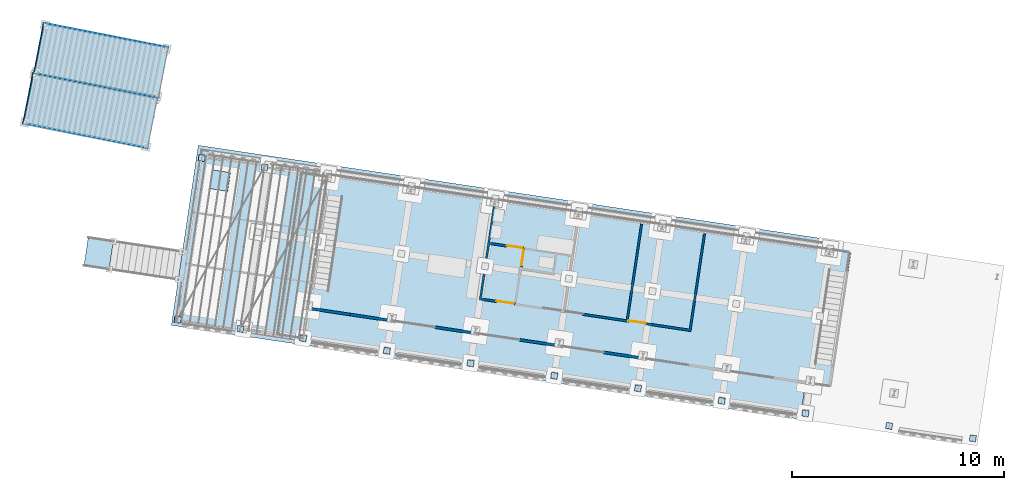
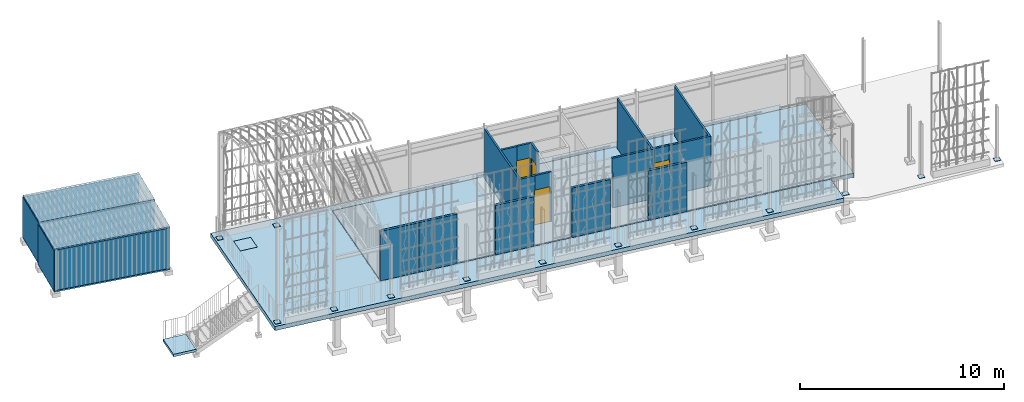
# One storey, part 134 of 142: 20 plates, 8 walls, 7 slabs, 4 doors, 7 openings, 5 elements without a shape of their own.
"""IFC4 building model written with IfcOpenShell, lengths in metres."""

from ifc_helpers import new_model, si_unit, direction, frame, origin_with_axes, place, context, subcontext, project, spatial, polyline, outline, extrude, material, layer, layer_set, constituent, constituent_set, element, fill, aggregate, save


model = new_model("IFC4")

# Units and contexts
model_context = context("Model", 3, precision=1e-05, world=origin_with_axes(), true_north=direction((0.0, 1.0)))
body_context = subcontext(model_context, "Body", "Model", "MODEL_VIEW")
ifc_project = project(units=[si_unit("AREAUNIT", "SQUARE_METRE"), si_unit("VOLUMEUNIT", "CUBIC_METRE"), si_unit("LENGTHUNIT", "METRE")], contexts=[model_context])

# Site, building, storey
site_placement = place(None, origin_with_axes())
site = spatial("IfcSite", under=ifc_project, at=site_placement, Name="Lares · Rua das Mercês · artigo 4771")
building_placement = place(site_placement, frame((15.0, 9.7, 14.65), z_axis=(0.0, 0.0, 1.0), x_axis=(0.989015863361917, -0.147809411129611, 0.0)))
building = spatial("IfcBuilding", under=site, at=building_placement, Name="Casa Sobreposta")
storey_placement = place(building_placement, origin_with_axes())
storey = spatial("IfcBuildingStorey", under=building, at=storey_placement, Name="00 · Habitação e estacionamento", Elevation=14.65)

# Assembly, slabs, opening, plate
assembly_1_placement = place(storey_placement, origin_with_axes())
assembly_1 = element("IfcElementAssembly", 1, at=assembly_1_placement, inside=storey, Name="Pódio · terraço, casa térrea e cisterna", ObjectType="CISTERN_PODIUM", PredefinedType="USERDEFINED")
ifc_material_1 = material(Name="Betão armado / Stahlbeton", Category="concrete")
slab_1_placement = place(assembly_1_placement, frame((0.0, 0.0, -0.25), z_axis=(0.0, 0.0, 1.0), x_axis=(1.0, 0.0, 0.0)))
slab_1 = element("IfcSlab", 2, at=slab_1_placement, material=ifc_material_1, Name="Pódio · laje da casa 250 mm", PredefinedType="FLOOR", context=body_context, shape_type="SweptSolid", body=[
    extrude(outline(polyline([(25.01, 0.0), (25.01, 6.4), (0.0, 6.4), (0.0, 0.0), (25.01, 0.0)])), origin_with_axes(), (0.0, 0.0, 1.0), 0.25),
])
slab_2_placement = place(assembly_1_placement, frame((0.0, 0.0, -0.29), z_axis=(0.0, 0.0, 1.0), x_axis=(1.0, 0.0, 0.0)))
slab_2 = element("IfcSlab", 3, at=slab_2_placement, material=ifc_material_1, Name="Pódio · terraço e faixa de proteção sul", PredefinedType="FLOOR", context=body_context, shape_type="SweptSolid", body=[
    extrude(outline(polyline([(-6.25, 6.85), (23.8, 6.85), (23.8, 6.4), (0.0, 6.4), (0.0, 0.0), (23.8, 0.0), (23.8, -1.75), (-6.25, -1.75), (-6.25, 6.85)])), origin_with_axes(), (0.0, 0.0, 1.0), 0.25),
])
opening_1_placement = place(slab_2_placement, frame((0.0, 0.0, -0.06), z_axis=(0.0, 0.0, 1.0), x_axis=(1.0, 0.0, 0.0)))
element("IfcOpeningElement", 4, at=opening_1_placement, cuts=slab_2, Name="Cisterna · abertura de inspeção", PredefinedType="OPENING", context=body_context, shape_type="SweptSolid", body=[
    extrude(outline(polyline([(-4.55, 4.9), (-4.55, 5.8), (-5.45, 5.8), (-5.45, 4.9), (-4.55, 4.9)])), origin_with_axes(), (0.0, 0.0, 1.0), 0.4),
])
ifc_material_2 = material(Name="Aço galvanizado / Stahl verzinkt", Category="steel")
plate_1_placement = place(assembly_1_placement, frame((0.0, 0.0, -0.085), z_axis=(0.0, 0.0, 1.0), x_axis=(1.0, 0.0, 0.0)))
plate_1 = element("IfcPlate", 5, at=plate_1_placement, material=ifc_material_2, Name="Cisterna · tampa estanque de inspeção", PredefinedType="SHEET", context=body_context, shape_type="SweptSolid", body=[
    extrude(outline(polyline([(-4.55, 4.9), (-4.55, 5.8), (-5.45, 5.8), (-5.45, 4.9), (-4.55, 4.9)])), origin_with_axes(), (0.0, 0.0, 1.0), 0.045),
])
aggregate(assembly_1, [slab_1, slab_2, plate_1])

# Stair, slab
stair_placement = place(storey_placement, origin_with_axes())
stair = element("IfcStair", 6, at=stair_placement, inside=storey, Name="Jardim · escada pela fachada poente", PredefinedType="STRAIGHT_RUN_STAIR")
slab_3_placement = place(stair_placement, frame((0.0, 0.0, -2.1), z_axis=(0.0, 0.0, 1.0), x_axis=(1.0, 0.0, 0.0)))
slab_3 = element("IfcSlab", 7, at=slab_3_placement, material=ifc_material_1, Name="Jardim · patamar poente", PredefinedType="LANDING", context=body_context, shape_type="SweptSolid", body=[
    extrude(outline(polyline([(-9.55, 0.4), (-9.55, 1.8), (-10.75, 1.8), (-10.75, 0.4), (-9.55, 0.4)])), origin_with_axes(), (0.0, 0.0, 1.0), 0.15),
])
aggregate(stair, [slab_3])

# Assembly, plates
assembly_2_placement = place(storey_placement, origin_with_axes())
assembly_2 = element("IfcElementAssembly", 8, at=assembly_2_placement, inside=storey, Name="Pérgola · prolongamento da estufa 6 m", ObjectType="PERGOLA_GREENHOUSE_EXTENSION", PredefinedType="USERDEFINED")
plate_2_placement = place(assembly_2_placement, frame((0.0, 0.0, -0.04), z_axis=(0.0, 0.0, 1.0), x_axis=(1.0, 0.0, 0.0)))
plate_2 = element("IfcPlate", 9, at=plate_2_placement, material=ifc_material_2, Name="Pérgola · chapa de ancoragem", PredefinedType="SHEET", context=body_context, shape_type="SweptSolid", body=[
    extrude(outline(polyline([(-5.85, -1.59), (-5.85, -1.29), (-6.15, -1.29), (-6.15, -1.59), (-5.85, -1.59)])), origin_with_axes(), (0.0, 0.0, 1.0), 0.025),
])
plate_3_placement = place(assembly_2_placement, frame((0.0, 0.0, -0.04), z_axis=(0.0, 0.0, 1.0), x_axis=(1.0, 0.0, 0.0)))
plate_3 = element("IfcPlate", 10, at=plate_3_placement, material=ifc_material_2, Name="Pérgola · chapa de ancoragem", PredefinedType="SHEET", context=body_context, shape_type="SweptSolid", body=[
    extrude(outline(polyline([(-5.85, 6.13), (-5.85, 6.43), (-6.15, 6.43), (-6.15, 6.13), (-5.85, 6.13)])), origin_with_axes(), (0.0, 0.0, 1.0), 0.025),
])
plate_4_placement = place(assembly_2_placement, frame((0.0, 0.0, -0.04), z_axis=(0.0, 0.0, 1.0), x_axis=(1.0, 0.0, 0.0)))
plate_4 = element("IfcPlate", 11, at=plate_4_placement, material=ifc_material_2, Name="Pérgola · chapa de ancoragem", PredefinedType="SHEET", context=body_context, shape_type="SweptSolid", body=[
    extrude(outline(polyline([(-2.85, -1.59), (-2.85, -1.29), (-3.15, -1.29), (-3.15, -1.59), (-2.85, -1.59)])), origin_with_axes(), (0.0, 0.0, 1.0), 0.025),
])
plate_5_placement = place(assembly_2_placement, frame((0.0, 0.0, -0.04), z_axis=(0.0, 0.0, 1.0), x_axis=(1.0, 0.0, 0.0)))
plate_5 = element("IfcPlate", 12, at=plate_5_placement, material=ifc_material_2, Name="Pérgola · chapa de ancoragem", PredefinedType="SHEET", context=body_context, shape_type="SweptSolid", body=[
    extrude(outline(polyline([(-2.85, 6.13), (-2.85, 6.43), (-3.15, 6.43), (-3.15, 6.13), (-2.85, 6.13)])), origin_with_axes(), (0.0, 0.0, 1.0), 0.025),
])
aggregate(assembly_2, [plate_2, plate_3, plate_4, plate_5])

# Plates
plate_6_placement = place(storey_placement, frame((0.0, 0.0, -0.04), z_axis=(0.0, 0.0, 1.0), x_axis=(1.0, 0.0, 0.0)))
element("IfcPlate", 13, at=plate_6_placement, inside=storey, material=ifc_material_2, Name="Projeção estufa · chapa de ancoragem", PredefinedType="SHEET", context=body_context, shape_type="SweptSolid", body=[
    extrude(outline(polyline([(0.15, -1.59), (0.15, -1.29), (-0.15, -1.29), (-0.15, -1.59), (0.15, -1.59)])), origin_with_axes(), (0.0, 0.0, 1.0), 0.025),
])
plate_7_placement = place(storey_placement, frame((0.0, 0.0, -0.04), z_axis=(0.0, 0.0, 1.0), x_axis=(1.0, 0.0, 0.0)))
element("IfcPlate", 14, at=plate_7_placement, inside=storey, material=ifc_material_2, Name="Projeção estufa · chapa de ancoragem", PredefinedType="SHEET", context=body_context, shape_type="SweptSolid", body=[
    extrude(outline(polyline([(4.15, -1.59), (4.15, -1.29), (3.85, -1.29), (3.85, -1.59), (4.15, -1.59)])), origin_with_axes(), (0.0, 0.0, 1.0), 0.025),
])
plate_8_placement = place(storey_placement, frame((0.0, 0.0, -0.04), z_axis=(0.0, 0.0, 1.0), x_axis=(1.0, 0.0, 0.0)))
element("IfcPlate", 15, at=plate_8_placement, inside=storey, material=ifc_material_2, Name="Projeção estufa · chapa de ancoragem", PredefinedType="SHEET", context=body_context, shape_type="SweptSolid", body=[
    extrude(outline(polyline([(8.15, -1.59), (8.15, -1.29), (7.85, -1.29), (7.85, -1.59), (8.15, -1.59)])), origin_with_axes(), (0.0, 0.0, 1.0), 0.025),
])
plate_9_placement = place(storey_placement, frame((0.0, 0.0, -0.04), z_axis=(0.0, 0.0, 1.0), x_axis=(1.0, 0.0, 0.0)))
element("IfcPlate", 16, at=plate_9_placement, inside=storey, material=ifc_material_2, Name="Projeção estufa · chapa de ancoragem", PredefinedType="SHEET", context=body_context, shape_type="SweptSolid", body=[
    extrude(outline(polyline([(12.15, -1.59), (12.15, -1.29), (11.85, -1.29), (11.85, -1.59), (12.15, -1.59)])), origin_with_axes(), (0.0, 0.0, 1.0), 0.025),
])
plate_10_placement = place(storey_placement, frame((0.0, 0.0, -0.04), z_axis=(0.0, 0.0, 1.0), x_axis=(1.0, 0.0, 0.0)))
element("IfcPlate", 17, at=plate_10_placement, inside=storey, material=ifc_material_2, Name="Projeção estufa · chapa de ancoragem", PredefinedType="SHEET", context=body_context, shape_type="SweptSolid", body=[
    extrude(outline(polyline([(16.15, -1.59), (16.15, -1.29), (15.85, -1.29), (15.85, -1.59), (16.15, -1.59)])), origin_with_axes(), (0.0, 0.0, 1.0), 0.025),
])
plate_11_placement = place(storey_placement, frame((0.0, 0.0, -0.04), z_axis=(0.0, 0.0, 1.0), x_axis=(1.0, 0.0, 0.0)))
element("IfcPlate", 18, at=plate_11_placement, inside=storey, material=ifc_material_2, Name="Projeção estufa · chapa de ancoragem", PredefinedType="SHEET", context=body_context, shape_type="SweptSolid", body=[
    extrude(outline(polyline([(20.15, -1.59), (20.15, -1.29), (19.85, -1.29), (19.85, -1.59), (20.15, -1.59)])), origin_with_axes(), (0.0, 0.0, 1.0), 0.025),
])
plate_12_placement = place(storey_placement, frame((0.0, 0.0, -0.04), z_axis=(0.0, 0.0, 1.0), x_axis=(1.0, 0.0, 0.0)))
element("IfcPlate", 19, at=plate_12_placement, inside=storey, material=ifc_material_2, Name="Projeção estufa · chapa de ancoragem", PredefinedType="SHEET", context=body_context, shape_type="SweptSolid", body=[
    extrude(outline(polyline([(24.15, -1.59), (24.15, -1.29), (23.85, -1.29), (23.85, -1.59), (24.15, -1.59)])), origin_with_axes(), (0.0, 0.0, 1.0), 0.025),
])
plate_13_placement = place(storey_placement, frame((0.0, 0.0, -0.04), z_axis=(0.0, 0.0, 1.0), x_axis=(1.0, 0.0, 0.0)))
element("IfcPlate", 20, at=plate_13_placement, inside=storey, material=ifc_material_2, Name="Projeção estufa · chapa de ancoragem", PredefinedType="SHEET", context=body_context, shape_type="SweptSolid", body=[
    extrude(outline(polyline([(28.15, -1.59), (28.15, -1.29), (27.85, -1.29), (27.85, -1.59), (28.15, -1.59)])), origin_with_axes(), (0.0, 0.0, 1.0), 0.025),
])
plate_14_placement = place(storey_placement, frame((0.0, 0.0, -0.04), z_axis=(0.0, 0.0, 1.0), x_axis=(1.0, 0.0, 0.0)))
element("IfcPlate", 21, at=plate_14_placement, inside=storey, material=ifc_material_2, Name="Projeção estufa · chapa de ancoragem", PredefinedType="SHEET", context=body_context, shape_type="SweptSolid", body=[
    extrude(outline(polyline([(32.15, -1.59), (32.15, -1.29), (31.85, -1.29), (31.85, -1.59), (32.15, -1.59)])), origin_with_axes(), (0.0, 0.0, 1.0), 0.025),
])

# Assembly, slabs, plates
assembly_3_placement = place(storey_placement, frame((-14.4335953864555, 9.04888612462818, 0.0), z_axis=(0.0, 0.0, 1.0), x_axis=(0.999032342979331, -0.0439815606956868, 0.0)))
assembly_3 = element("IfcElementAssembly", 22, at=assembly_3_placement, inside=storey, Name="Contentor existente 1 · 6 m", ObjectType="EXISTING_SHIPPING_CONTAINER", PredefinedType="USERDEFINED")
ifc_material_3 = material(Name="Contentor · pintura 1", Category="steel")
slab_4_placement = place(assembly_3_placement, frame((0.0, 0.0, -1.3), z_axis=(0.0, 0.0, 1.0), x_axis=(1.0, 0.0, 0.0)))
slab_4 = element("IfcSlab", 23, at=slab_4_placement, material=ifc_material_3, Name="Contentor · piso ou teto", PredefinedType="FLOOR", context=body_context, shape_type="SweptSolid", body=[
    extrude(outline(polyline([(6.0, 0.0), (6.0, 2.44), (0.0, 2.44), (0.0, 0.0), (6.0, 0.0)])), origin_with_axes(), (0.0, 0.0, 1.0), 0.08),
])
slab_5_placement = place(assembly_3_placement, frame((0.0, 0.0, 1.21), z_axis=(0.0, 0.0, 1.0), x_axis=(1.0, 0.0, 0.0)))
slab_5 = element("IfcSlab", 24, at=slab_5_placement, material=ifc_material_3, Name="Contentor · piso ou teto", PredefinedType="FLOOR", context=body_context, shape_type="SweptSolid", body=[
    extrude(outline(polyline([(6.0, 0.0), (6.0, 2.44), (0.0, 2.44), (0.0, 0.0), (6.0, 0.0)])), origin_with_axes(), (0.0, 0.0, 1.0), 0.08),
])
plate_15_placement = place(assembly_3_placement, frame((0.0, 0.0, -1.22), z_axis=(0.0, 0.0, 1.0), x_axis=(1.0, 0.0, 0.0)))
plate_15 = element("IfcPlate", 25, at=plate_15_placement, material=ifc_material_3, Name="Contentor · chapa lateral", context=body_context, shape_type="SweptSolid", body=[
    extrude(outline(polyline([(6.0, 0.0325), (6.0, 0.0075), (0.0, 0.0075), (0.0, 0.0325), (6.0, 0.0325)])), origin_with_axes(), (0.0, 0.0, 1.0), 2.43),
])
plate_16_placement = place(assembly_3_placement, frame((0.0, 0.0, -1.22), z_axis=(0.0, 0.0, 1.0), x_axis=(1.0, 0.0, 0.0)))
plate_16 = element("IfcPlate", 26, at=plate_16_placement, material=ifc_material_3, Name="Contentor · chapa lateral", context=body_context, shape_type="SweptSolid", body=[
    extrude(outline(polyline([(6.0, 2.4325), (6.0, 2.4075), (0.0, 2.4075), (0.0, 2.4325), (6.0, 2.4325)])), origin_with_axes(), (0.0, 0.0, 1.0), 2.43),
])
plate_17_placement = place(assembly_3_placement, frame((0.0, 0.0, -1.22), z_axis=(0.0, 0.0, 1.0), x_axis=(1.0, 0.0, 0.0)))
plate_17 = element("IfcPlate", 27, at=plate_17_placement, material=ifc_material_3, Name="Contentor · chapa de fundo", context=body_context, shape_type="SweptSolid", body=[
    extrude(outline(polyline([(-0.025, 2.44), (0.025, 2.44), (0.025, 0.0), (-0.025, 0.0), (-0.025, 2.44)])), origin_with_axes(), (0.0, 0.0, 1.0), 2.43),
])
aggregate(assembly_3, [slab_4, slab_5, plate_15, plate_16, plate_17])

assembly_4_placement = place(storey_placement, frame((-14.5932944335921, 6.63122214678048, 0.0), z_axis=(0.0, 0.0, 1.0), x_axis=(0.998832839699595, -0.0483007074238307, 0.0)))
assembly_4 = element("IfcElementAssembly", 28, at=assembly_4_placement, inside=storey, Name="Contentor existente 2 · 6 m", ObjectType="EXISTING_SHIPPING_CONTAINER", PredefinedType="USERDEFINED")
ifc_material_4 = material(Name="Contentor · pintura 2", Category="steel")
slab_6_placement = place(assembly_4_placement, frame((0.0, 0.0, -1.3), z_axis=(0.0, 0.0, 1.0), x_axis=(1.0, 0.0, 0.0)))
slab_6 = element("IfcSlab", 29, at=slab_6_placement, material=ifc_material_4, Name="Contentor · piso ou teto", PredefinedType="FLOOR", context=body_context, shape_type="SweptSolid", body=[
    extrude(outline(polyline([(6.0, 0.0), (6.0, 2.44), (0.0, 2.44), (0.0, 0.0), (6.0, 0.0)])), origin_with_axes(), (0.0, 0.0, 1.0), 0.08),
])
slab_7_placement = place(assembly_4_placement, frame((0.0, 0.0, 1.21), z_axis=(0.0, 0.0, 1.0), x_axis=(1.0, 0.0, 0.0)))
slab_7 = element("IfcSlab", 30, at=slab_7_placement, material=ifc_material_4, Name="Contentor · piso ou teto", PredefinedType="FLOOR", context=body_context, shape_type="SweptSolid", body=[
    extrude(outline(polyline([(6.0, 0.0), (6.0, 2.44), (0.0, 2.44), (0.0, 0.0), (6.0, 0.0)])), origin_with_axes(), (0.0, 0.0, 1.0), 0.08),
])
plate_18_placement = place(assembly_4_placement, frame((0.0, 0.0, -1.22), z_axis=(0.0, 0.0, 1.0), x_axis=(1.0, 0.0, 0.0)))
plate_18 = element("IfcPlate", 31, at=plate_18_placement, material=ifc_material_4, Name="Contentor · chapa lateral", context=body_context, shape_type="SweptSolid", body=[
    extrude(outline(polyline([(6.0, 0.0325), (6.0, 0.0075), (0.0, 0.0075), (0.0, 0.0325), (6.0, 0.0325)])), origin_with_axes(), (0.0, 0.0, 1.0), 2.43),
])
plate_19_placement = place(assembly_4_placement, frame((0.0, 0.0, -1.22), z_axis=(0.0, 0.0, 1.0), x_axis=(1.0, 0.0, 0.0)))
plate_19 = element("IfcPlate", 32, at=plate_19_placement, material=ifc_material_4, Name="Contentor · chapa lateral", context=body_context, shape_type="SweptSolid", body=[
    extrude(outline(polyline([(6.0, 2.4325), (6.0, 2.4075), (0.0, 2.4075), (0.0, 2.4325), (6.0, 2.4325)])), origin_with_axes(), (0.0, 0.0, 1.0), 2.43),
])
plate_20_placement = place(assembly_4_placement, frame((0.0, 0.0, -1.22), z_axis=(0.0, 0.0, 1.0), x_axis=(1.0, 0.0, 0.0)))
plate_20 = element("IfcPlate", 33, at=plate_20_placement, material=ifc_material_4, Name="Contentor · chapa de fundo", context=body_context, shape_type="SweptSolid", body=[
    extrude(outline(polyline([(-0.025, 2.44), (0.025, 2.44), (0.025, 0.0), (-0.025, 0.0), (-0.025, 2.44)])), origin_with_axes(), (0.0, 0.0, 1.0), 2.43),
])
aggregate(assembly_4, [slab_6, slab_7, plate_18, plate_19, plate_20])

# Wall, openings, doors
ifc_material_5 = material(Name="OSB", Category="wood")
ifc_constituent_1 = constituent(ifc_material_5, Name="osb")
ifc_material_6 = material(Name="Lã mineral / Mineralwolle 2", Category="mineral wool")
ifc_constituent_2 = constituent(ifc_material_6, Name="wool")
ifc_constituent_set_1 = constituent_set(constituents=[ifc_constituent_1, ifc_constituent_2], Name="OSB22 / lã mineral / OSB22")
wall_1_placement = place(storey_placement, origin_with_axes())
wall_1 = element("IfcWall", 34, at=wall_1_placement, inside=storey, material=ifc_constituent_set_1, Name="Divisória 1 · OSB 22 mm nas duas faces", context=body_context, shape_type="SweptSolid", body=[
    extrude(outline(polyline([(8.05999999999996, 6.27299999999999), (8.05999999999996, 4.35299999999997), (8.80454037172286, 4.35299999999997), (8.80454322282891, 4.37255471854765), (9.67462900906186, 4.37242785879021), (9.67461809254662, 4.29755537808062), (9.74955631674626, 4.29756574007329), (9.74967661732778, 3.42754853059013), (9.63967661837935, 3.4275333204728), (9.63956117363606, 4.26243297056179), (8.90999999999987, 4.26253934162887), (8.90999999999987, 4.24299999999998), (8.05999999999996, 4.24299999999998), (8.05999999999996, 1.68999999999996), (8.70456930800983, 1.68999999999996), (8.70457262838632, 1.71008556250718), (9.6746647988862, 1.70992519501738), (9.67464661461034, 1.59992519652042), (8.80999999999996, 1.60006813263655), (8.80999999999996, 1.57999999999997), (7.96000000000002, 1.57999999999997), (7.96000000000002, 6.27299999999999), (8.05999999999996, 6.27299999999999)]), holes=[polyline([(7.98200000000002, 1.60199999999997), (8.78799999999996, 1.60199999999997), (8.78799999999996, 1.62207176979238), (9.65265025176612, 1.62192883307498), (9.65266116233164, 1.68792883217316), (8.72656899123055, 1.68808192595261), (8.72656567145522, 1.66799999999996), (8.03799999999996, 1.66799999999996), (8.03799999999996, 4.26499999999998), (8.88799999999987, 4.26499999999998), (8.88799999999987, 4.28454254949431), (9.65261617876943, 4.28443106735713), (9.65262580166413, 4.35043106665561), (8.8265400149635, 4.35055151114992), (8.82653716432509, 4.33099999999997), (8.03799999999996, 4.33099999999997), (8.03799999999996, 6.25099999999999), (7.98200000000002, 6.25099999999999), (7.98200000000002, 1.60199999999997)]), polyline([(9.66167357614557, 3.44953636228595), (9.72767357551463, 3.44954548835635), (9.72755935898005, 4.27556269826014), (9.661559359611, 4.27555357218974), (9.66167357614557, 3.44953636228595)])]), origin_with_axes(), (0.0, 0.0, 1.0), 2.968),
    extrude(outline(polyline([(7.98200000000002, 6.25099999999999), (8.03799999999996, 6.25099999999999), (8.03799999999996, 4.33099999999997), (8.82653716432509, 4.33099999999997), (8.8265400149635, 4.35055151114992), (9.65262580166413, 4.35043106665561), (9.65261617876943, 4.28443106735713), (8.88799999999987, 4.28454254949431), (8.88799999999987, 4.26499999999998), (8.03799999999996, 4.26499999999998), (8.03799999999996, 1.66799999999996), (8.72656567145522, 1.66799999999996), (8.72656899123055, 1.68808192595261), (9.65266116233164, 1.68792883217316), (9.65265025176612, 1.62192883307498), (8.78799999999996, 1.62207176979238), (8.78799999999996, 1.60199999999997), (7.98200000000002, 1.60199999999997), (7.98200000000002, 6.25099999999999)])), origin_with_axes(), (0.0, 0.0, 1.0), 2.968),
    extrude(outline(polyline([(9.661559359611, 4.27555357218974), (9.72755935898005, 4.27556269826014), (9.72767357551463, 3.44954548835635), (9.66167357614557, 3.44953636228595), (9.661559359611, 4.27555357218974)])), origin_with_axes(), (0.0, 0.0, 1.0), 2.968),
])
opening_2_placement = place(wall_1_placement, origin_with_axes())
opening_2 = element("IfcOpeningElement", 35, at=opening_2_placement, cuts=wall_1, PredefinedType="OPENING", context=body_context, shape_type="SweptSolid", body=[
    extrude(outline(polyline([(8.87451187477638, 4.15754451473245), (8.87455853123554, 4.47754451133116), (9.60464431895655, 4.4774380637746), (9.60459766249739, 4.15743806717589), (8.87451187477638, 4.15754451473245)])), origin_with_axes(), (0.0, 0.0, 1.0), 2.1),
])
opening_3_placement = place(wall_1_placement, origin_with_axes())
opening_3 = element("IfcOpeningElement", 36, at=opening_3_placement, cuts=wall_1, PredefinedType="OPENING", context=body_context, shape_type="SweptSolid", body=[
    extrude(outline(polyline([(8.77453708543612, 1.49507399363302), (8.77458998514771, 1.81507398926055), (9.60468215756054, 1.81493676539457), (9.60462925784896, 1.49493676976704), (8.77453708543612, 1.49507399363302)])), origin_with_axes(), (0.0, 0.0, 1.0), 2.1),
])
opening_4_placement = place(wall_1_placement, origin_with_axes())
opening_4 = element("IfcOpeningElement", 37, at=opening_4_placement, cuts=wall_1, PredefinedType="OPENING", context=body_context, shape_type="SweptSolid", body=[
    extrude(outline(polyline([(9.85466693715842, 3.49756304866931), (9.53466694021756, 3.49751880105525), (9.5345659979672, 4.22753601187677), (9.85456599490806, 4.22758025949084), (9.85466693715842, 3.49756304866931)])), origin_with_axes(), (0.0, 0.0, 1.0), 2.1),
])
door_1_placement = place(storey_placement, origin_with_axes())
door_1 = element("IfcDoor", 38, at=door_1_placement, inside=storey, material=ifc_material_5, Name="Porta interior 3", OperationType="SINGLE_SWING_LEFT", OverallHeight=2.1, OverallWidth=0.730085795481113, PredefinedType="DOOR", context=body_context, shape_type="SweptSolid", body=[
    extrude(outline(polyline([(8.87453265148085, 4.30004451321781), (8.87453775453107, 4.3350445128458), (9.60462354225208, 4.33493806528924), (9.60461843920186, 4.29993806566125), (8.87453265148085, 4.30004451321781)])), origin_with_axes(), (0.0, 0.0, 1.0), 2.1),
])
fill(opening_2, door_1)
door_2_placement = place(storey_placement, origin_with_axes())
door_2 = element("IfcDoor", 39, at=door_2_placement, inside=storey, material=ifc_material_5, Name="Porta interior 4", OperationType="SINGLE_SWING_LEFT", OverallHeight=2.1, OverallWidth=0.830092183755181, PredefinedType="DOOR", context=body_context, shape_type="SweptSolid", body=[
    extrude(outline(polyline([(8.77456064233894, 1.6375739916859), (8.7745664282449, 1.67257399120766), (9.60465860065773, 1.67243676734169), (9.60465281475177, 1.63743676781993), (8.77456064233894, 1.6375739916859)])), origin_with_axes(), (0.0, 0.0, 1.0), 2.1),
])
fill(opening_3, door_2)
door_3_placement = place(storey_placement, origin_with_axes())
door_3 = element("IfcDoor", 40, at=door_3_placement, inside=storey, material=ifc_material_5, Name="Porta interior 6", OperationType="SINGLE_SWING_LEFT", OverallHeight=2.1, OverallWidth=0.730017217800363, PredefinedType="DOOR", context=body_context, shape_type="SweptSolid", body=[
    extrude(outline(polyline([(9.71216693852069, 3.49754334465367), (9.67716693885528, 3.49753850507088), (9.67706599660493, 4.22755571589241), (9.71206599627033, 4.2275605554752), (9.71216693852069, 3.49754334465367)])), origin_with_axes(), (0.0, 0.0, 1.0), 2.1),
])
fill(opening_4, door_3)

# Wall, openings, door
ifc_constituent_3 = constituent(ifc_material_5, Name="osb")
ifc_constituent_4 = constituent(ifc_material_6, Name="wool")
ifc_constituent_set_2 = constituent_set(constituents=[ifc_constituent_3, ifc_constituent_4], Name="OSB22 / lã mineral / OSB22")
wall_2_placement = place(storey_placement, origin_with_axes())
wall_2 = element("IfcWall", 41, at=wall_2_placement, inside=storey, material=ifc_constituent_set_2, Name="Divisória 3 · OSB 22 mm nas duas faces", context=body_context, shape_type="SweptSolid", body=[
    extrude(outline(polyline([(15.07, 6.27299999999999), (15.07, 1.70993390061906), (15.9846265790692, 1.71008560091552), (15.9846448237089, 1.60008560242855), (15.1199999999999, 1.59994219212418), (15.1199999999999, 1.57999999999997), (12.8699999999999, 1.57999999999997), (12.8699999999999, 1.68999999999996), (14.97, 1.68999999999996), (14.97, 6.27299999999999), (15.07, 6.27299999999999)]), holes=[polyline([(14.992, 1.66799999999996), (12.8919999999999, 1.66799999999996), (12.8919999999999, 1.60199999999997), (15.0979999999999, 1.60199999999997), (15.0979999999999, 1.6219385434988), (15.9626411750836, 1.62208195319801), (15.9626302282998, 1.68808195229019), (15.048, 1.68793025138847), (15.048, 6.25099999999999), (14.992, 6.25099999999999), (14.992, 1.66799999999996)])]), origin_with_axes(), (0.0, 0.0, 1.0), 2.968),
    extrude(outline(polyline([(14.992, 6.25099999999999), (15.048, 6.25099999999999), (15.048, 1.68793025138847), (15.9626302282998, 1.68808195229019), (15.9626411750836, 1.62208195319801), (15.0979999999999, 1.6219385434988), (15.0979999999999, 1.60199999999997), (12.8919999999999, 1.60199999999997), (12.8919999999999, 1.66799999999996), (14.992, 1.66799999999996), (14.992, 6.25099999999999)])), origin_with_axes(), (0.0, 0.0, 1.0), 2.968),
])
opening_5_placement = place(wall_2_placement, origin_with_axes())
opening_5 = element("IfcOpeningElement", 42, at=opening_5_placement, cuts=wall_2, PredefinedType="OPENING", context=body_context, shape_type="SweptSolid", body=[
    extrude(outline(polyline([(15.9146091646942, 1.81507398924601), (15.9146622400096, 1.49507399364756), (15.0845696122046, 1.49493631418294), (15.0845165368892, 1.8149363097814), (15.9146091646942, 1.81507398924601)])), origin_with_axes(), (0.0, 0.0, 1.0), 2.1),
])
opening_6_placement = place(wall_2_placement, origin_with_axes())
element("IfcOpeningElement", 43, at=opening_6_placement, cuts=wall_2, PredefinedType="OPENING", context=body_context, shape_type="SweptSolid", body=[
    extrude(outline(polyline([(12.9045964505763, 1.81507398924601), (12.9046495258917, 1.49507399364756), (12.0745568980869, 1.49493631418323), (12.0745038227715, 1.81493630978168), (12.9045964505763, 1.81507398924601)])), origin_with_axes(), (0.0, 0.0, 1.0), 2.1),
])
door_4_placement = place(storey_placement, origin_with_axes())
door_4 = element("IfcDoor", 44, at=door_4_placement, inside=storey, material=ifc_material_5, Name="Porta interior 1", OperationType="SINGLE_SWING_LEFT", OverallHeight=2.1, OverallWidth=0.830092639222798, PredefinedType="DOOR", context=body_context, shape_type="SweptSolid", body=[
    extrude(outline(polyline([(15.9146327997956, 1.67257399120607), (15.9146386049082, 1.63757399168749), (15.0845459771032, 1.63743631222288), (15.0845401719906, 1.67243631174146), (15.9146327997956, 1.67257399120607)])), origin_with_axes(), (0.0, 0.0, 1.0), 2.1),
])
fill(opening_5, door_4)

# Wall, opening
ifc_constituent_5 = constituent(ifc_material_5, Name="osb")
ifc_constituent_6 = constituent(ifc_material_6, Name="wool")
ifc_constituent_set_3 = constituent_set(constituents=[ifc_constituent_5, ifc_constituent_6], Name="OSB22 / lã mineral / OSB22")
wall_3_placement = place(storey_placement, origin_with_axes())
wall_3 = element("IfcWall", 45, at=wall_3_placement, inside=storey, material=ifc_constituent_set_3, Name="Divisória 4 · OSB 22 mm nas duas faces", context=body_context, shape_type="SweptSolid", body=[
    extrude(outline(polyline([(17.98, 6.21236749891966), (18.0799999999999, 6.29570083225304), (18.0799999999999, 1.57999999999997), (15.8799999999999, 1.57999999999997), (15.8799999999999, 1.68999999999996), (17.98, 1.68999999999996), (17.98, 6.21236749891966)]), holes=[polyline([(15.9019999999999, 1.66799999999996), (15.9019999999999, 1.60199999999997), (18.0579999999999, 1.60199999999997), (18.0579999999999, 6.24872991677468), (18.002, 6.202063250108), (18.002, 1.66799999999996), (15.9019999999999, 1.66799999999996)])]), origin_with_axes(), (0.0, 0.0, 1.0), 2.968),
    extrude(outline(polyline([(18.002, 1.66799999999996), (18.002, 6.202063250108), (18.0579999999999, 6.24872991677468), (18.0579999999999, 1.60199999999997), (15.9019999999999, 1.60199999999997), (15.9019999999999, 1.66799999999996), (18.002, 1.66799999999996)])), origin_with_axes(), (0.0, 0.0, 1.0), 2.968),
])
opening_7_placement = place(wall_3_placement, origin_with_axes())
element("IfcOpeningElement", 46, at=opening_7_placement, cuts=wall_3, PredefinedType="OPENING", context=body_context, shape_type="SweptSolid", body=[
    extrude(outline(polyline([(15.9146091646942, 1.81507398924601), (15.9146622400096, 1.49507399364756), (15.0845696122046, 1.49493631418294), (15.0845165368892, 1.8149363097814), (15.9146091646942, 1.81507398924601)])), origin_with_axes(), (0.0, 0.0, 1.0), 2.1),
])

# Walls
ifc_material_7 = material(Name="Aço pintado / Stahl lackiert", Category="steel")
ifc_layer_1 = layer(ifc_material_7, 0.005, Name="steel")
ifc_layer_2 = layer(ifc_material_6, 0.12, Name="wool")
ifc_layer_3 = layer(ifc_material_7, 0.00516, Name="steel")
ifc_layer_set_1 = layer_set([ifc_layer_1, ifc_layer_2, ifc_layer_3], Name="Casa DFL sandwich · 130.16 mm")
wall_4_placement = place(storey_placement, origin_with_axes())
element("IfcWall", 47, at=wall_4_placement, inside=storey, material=ifc_layer_set_1, Name="Painel opaco sul 0", context=body_context, shape_type="SweptSolid", body=[
    extrude(outline(polyline([(2.02133333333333, 0.06508), (2.02133333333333, -0.06508), (0.0, -0.06508), (0.0, 0.06508), (2.02133333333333, 0.06508)])), origin_with_axes(), (0.0, 0.0, 1.0), 2.968),
])
ifc_layer_4 = layer(ifc_material_7, 0.005, Name="steel")
ifc_layer_5 = layer(ifc_material_6, 0.12, Name="wool")
ifc_layer_6 = layer(ifc_material_7, 0.00516, Name="steel")
ifc_layer_set_2 = layer_set([ifc_layer_4, ifc_layer_5, ifc_layer_6], Name="Casa DFL sandwich · 130.16 mm")
wall_5_placement = place(storey_placement, origin_with_axes())
element("IfcWall", 48, at=wall_5_placement, inside=storey, material=ifc_layer_set_2, Name="Painel opaco sul 1", context=body_context, shape_type="SweptSolid", body=[
    extrude(outline(polyline([(4.04266666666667, 0.06508), (4.04266666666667, -0.06508), (2.02133333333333, -0.06508), (2.02133333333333, 0.06508), (4.04266666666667, 0.06508)])), origin_with_axes(), (0.0, 0.0, 1.0), 2.968),
])
ifc_layer_7 = layer(ifc_material_7, 0.005, Name="steel")
ifc_layer_8 = layer(ifc_material_6, 0.12, Name="wool")
ifc_layer_9 = layer(ifc_material_7, 0.00516, Name="steel")
ifc_layer_set_3 = layer_set([ifc_layer_7, ifc_layer_8, ifc_layer_9], Name="Casa DFL sandwich · 130.16 mm")
wall_6_placement = place(storey_placement, origin_with_axes())
element("IfcWall", 49, at=wall_6_placement, inside=storey, material=ifc_layer_set_3, Name="Painel opaco sul 3", context=body_context, shape_type="SweptSolid", body=[
    extrude(outline(polyline([(8.08533333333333, 0.06508), (8.08533333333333, -0.06508), (6.064, -0.06508), (6.064, 0.06508), (8.08533333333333, 0.06508)])), origin_with_axes(), (0.0, 0.0, 1.0), 2.968),
])
ifc_layer_10 = layer(ifc_material_7, 0.005, Name="steel")
ifc_layer_11 = layer(ifc_material_6, 0.12, Name="wool")
ifc_layer_12 = layer(ifc_material_7, 0.00516, Name="steel")
ifc_layer_set_4 = layer_set([ifc_layer_10, ifc_layer_11, ifc_layer_12], Name="Casa DFL sandwich · 130.16 mm")
wall_7_placement = place(storey_placement, origin_with_axes())
element("IfcWall", 50, at=wall_7_placement, inside=storey, material=ifc_layer_set_4, Name="Painel opaco sul 5", context=body_context, shape_type="SweptSolid", body=[
    extrude(outline(polyline([(12.128, 0.06508), (12.128, -0.06508), (10.1066666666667, -0.06508), (10.1066666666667, 0.06508), (12.128, 0.06508)])), origin_with_axes(), (0.0, 0.0, 1.0), 2.968),
])
ifc_layer_13 = layer(ifc_material_7, 0.005, Name="steel")
ifc_layer_14 = layer(ifc_material_6, 0.12, Name="wool")
ifc_layer_15 = layer(ifc_material_7, 0.00516, Name="steel")
ifc_layer_set_5 = layer_set([ifc_layer_13, ifc_layer_14, ifc_layer_15], Name="Casa DFL sandwich · 130.16 mm")
wall_8_placement = place(storey_placement, origin_with_axes())
element("IfcWall", 51, at=wall_8_placement, inside=storey, material=ifc_layer_set_5, Name="Painel opaco sul 7", context=body_context, shape_type="SweptSolid", body=[
    extrude(outline(polyline([(16.1706666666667, 0.06508), (16.1706666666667, -0.06508), (14.1493333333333, -0.06508), (14.1493333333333, 0.06508), (16.1706666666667, 0.06508)])), origin_with_axes(), (0.0, 0.0, 1.0), 2.968),
])

save(model, "model.ifc")
